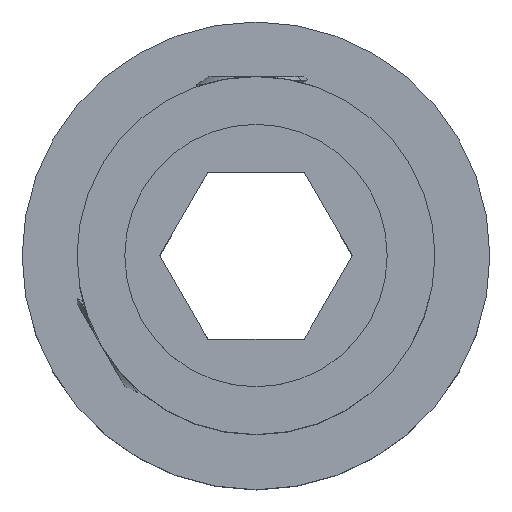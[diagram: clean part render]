
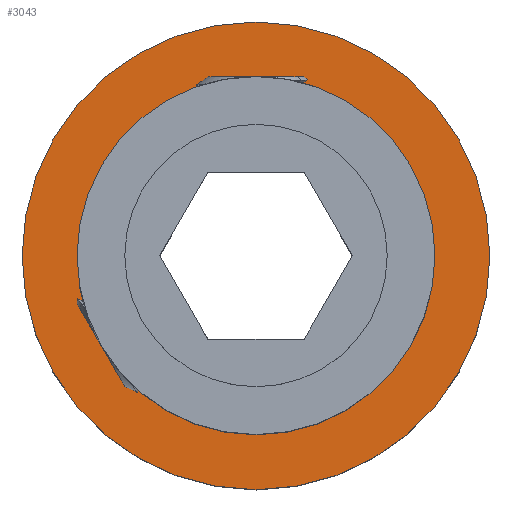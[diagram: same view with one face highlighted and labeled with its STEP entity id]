
A CAD part, top view. The second image highlights one B-rep face of the part: STEP entity #3043.
In plain terms, the highlighted planar face has unit normal (0, 0, 1).
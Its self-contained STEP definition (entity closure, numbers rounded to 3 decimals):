
#257 = DIRECTION ( 'NONE',  ( 0., 0., 1. ) ) ;
#723 = AXIS2_PLACEMENT_3D ( 'NONE', #1012, #9394, #15267 ) ;
#1012 = CARTESIAN_POINT ( 'NONE',  ( 0., 0., -8. ) ) ;
#1679 = EDGE_CURVE ( 'NONE', #6871, #2044, #15374, .T. ) ;
#2044 = VERTEX_POINT ( 'NONE', #8390 ) ;
#2070 = EDGE_LOOP ( 'NONE', ( #5065, #10658 ) ) ;
#2620 = CARTESIAN_POINT ( 'NONE',  ( 0., 0., -8. ) ) ;
#2714 = EDGE_CURVE ( 'NONE', #4995, #7132, #10640, .T. ) ;
#3043 = ADVANCED_FACE ( 'NONE', ( #13064, #8762 ), #13345, .T. ) ;
#3068 = CIRCLE ( 'NONE', #14850, 9.801 ) ;
#3376 = AXIS2_PLACEMENT_3D ( 'NONE', #13844, #6671, #15062 ) ;
#3990 = AXIS2_PLACEMENT_3D ( 'NONE', #2620, #257, #10985 ) ;
#4453 = CIRCLE ( 'NONE', #12098, 7.5 ) ;
#4995 = VERTEX_POINT ( 'NONE', #8379 ) ;
#5065 = ORIENTED_EDGE ( 'NONE', *, *, #9182, .F. ) ;
#6671 = DIRECTION ( 'NONE',  ( 0., 0., -1. ) ) ;
#6798 = CARTESIAN_POINT ( 'NONE',  ( 0., 0., -8. ) ) ;
#6871 = VERTEX_POINT ( 'NONE', #13650 ) ;
#7132 = VERTEX_POINT ( 'NONE', #14980 ) ;
#8379 = CARTESIAN_POINT ( 'NONE',  ( 9.801, 0., -8. ) ) ;
#8390 = CARTESIAN_POINT ( 'NONE',  ( -7.5, 0., -8. ) ) ;
#8762 = FACE_OUTER_BOUND ( 'NONE', #2070, .T. ) ;
#9182 = EDGE_CURVE ( 'NONE', #7132, #4995, #3068, .T. ) ;
#9394 = DIRECTION ( 'NONE',  ( 0., 0., 1. ) ) ;
#9801 = CARTESIAN_POINT ( 'NONE',  ( 0., 0., -8. ) ) ;
#10265 = EDGE_LOOP ( 'NONE', ( #10461, #14417 ) ) ;
#10461 = ORIENTED_EDGE ( 'NONE', *, *, #1679, .F. ) ;
#10640 = CIRCLE ( 'NONE', #3376, 9.801 ) ;
#10658 = ORIENTED_EDGE ( 'NONE', *, *, #2714, .F. ) ;
#10985 = DIRECTION ( 'NONE',  ( 1., 0., 0. ) ) ;
#12098 = AXIS2_PLACEMENT_3D ( 'NONE', #9801, #12243, #14570 ) ;
#12243 = DIRECTION ( 'NONE',  ( 0., 0., 1. ) ) ;
#13064 = FACE_BOUND ( 'NONE', #10265, .T. ) ;
#13345 = PLANE ( 'NONE',  #3990 ) ;
#13650 = CARTESIAN_POINT ( 'NONE',  ( 7.5, 0., -8. ) ) ;
#13844 = CARTESIAN_POINT ( 'NONE',  ( 0., 0., -8. ) ) ;
#13976 = DIRECTION ( 'NONE',  ( -1., 0., 0. ) ) ;
#14028 = DIRECTION ( 'NONE',  ( 0., 0., -1. ) ) ;
#14134 = EDGE_CURVE ( 'NONE', #2044, #6871, #4453, .T. ) ;
#14417 = ORIENTED_EDGE ( 'NONE', *, *, #14134, .F. ) ;
#14570 = DIRECTION ( 'NONE',  ( 1., 0., 0. ) ) ;
#14850 = AXIS2_PLACEMENT_3D ( 'NONE', #6798, #14028, #13976 ) ;
#14980 = CARTESIAN_POINT ( 'NONE',  ( -9.801, 0., -8. ) ) ;
#15062 = DIRECTION ( 'NONE',  ( -1., 0., 0. ) ) ;
#15267 = DIRECTION ( 'NONE',  ( 1., 0., 0. ) ) ;
#15374 = CIRCLE ( 'NONE', #723, 7.5 ) ;
